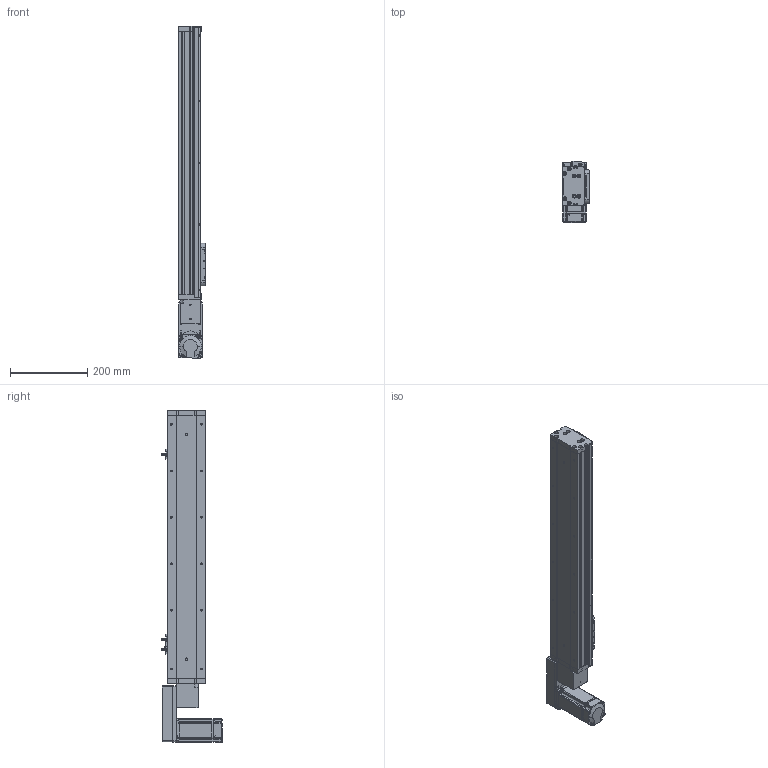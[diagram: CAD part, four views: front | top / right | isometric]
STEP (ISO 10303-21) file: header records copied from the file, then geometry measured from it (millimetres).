
FILE_DESCRIPTION (( 'STEP AP214' ), '1' );
FILE_NAME ('KSD100B-S500-MLB-CR.STEP', '2019-09-06T07:44:08', ( '微软用户' ), ( '微软中国' ), 'SwSTEP 2.0', 'SolidWorks 2014', '' );
FILE_SCHEMA (( 'AUTOMOTIVE_DESIGN' ));
Length unit declared in the file: millimetre
Products named in the file (15): 100宽滚珠螺姆安装板1; 100遵裔啣揤啣; 100遵裔啣500俴最; 100宽侧板500行程同步带; 100宽底板全封闭500行程同步带; KSD100B-S500-MLB-CR; 悵誘欶奻狟殏; 100宽马达安装板连板上下折丝杆同步带; 感应片100宽全封闭; U倰嫖萇EEㄜSX672; 100宽马达安装板同步带左; 100遵鎮湛假蚾啣蜊; 100宽端板同步带全封闭; MHMD042G1CA_2_03; 100宽滚珠螺姆安装板1防护罩
Assembly tree (18 placements, depth 2):
  KSD100B-S500-MLB-CR
    100宽底板全封闭500行程同步带
    100宽侧板500行程同步带  x2
    100遵裔啣500俴最
    100遵裔啣揤啣  x2
    100宽滚珠螺姆安装板1
    100宽滚珠螺姆安装板1防护罩
    100宽端板同步带全封闭
    100遵鎮湛假蚾啣蜊
    100宽马达安装板同步带左
    U倰嫖萇EEㄜSX672  x3
    感应片100宽全封闭
    100宽马达安装板连板上下折丝杆同步带
    悵誘欶奻狟殏
    MHMD042G1CA_2_03
Bounding box: 70 x 156.2 x 857 mm (x, y, z)
Volume: 1612641.6 mm3; surface area: 735200 mm2
Topology: 17 solids, 18 shells, 1697 faces, 4724 edges, 3045 vertices
Faces by surface type: cylinder 753, plane 733, cone 191, bspline 20
Entity records: 59916 total; most frequent: CARTESIAN_POINT 9070, DIRECTION 8190, ORIENTED_EDGE 7580, EDGE_CURVE 3862, AXIS2_PLACEMENT_3D 2943, VERTEX_POINT 2563, VECTOR 2304, LINE 2304
